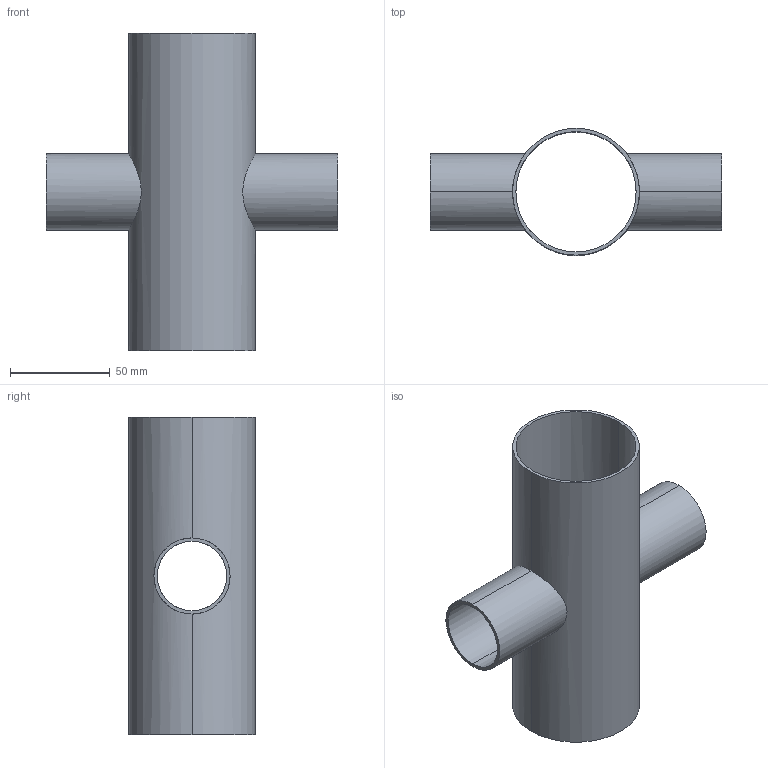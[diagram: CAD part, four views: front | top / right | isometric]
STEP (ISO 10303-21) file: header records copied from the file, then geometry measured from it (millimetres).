
FILE_DESCRIPTION (( 'STEP AP214' ), '1' );
FILE_NAME ('TE9RWWWW6L2.5x1.5-...STEP', '2016-05-22T04:19:41', ( 'eran' ), ( '' ), 'SwSTEP 2.0', 'SolidWorks 2016', '' );
FILE_SCHEMA (( 'AUTOMOTIVE_DESIGN' ));
Length unit declared in the file: millimetre
Products named in the file (1): TE9RWWWW6L2.5x1.5-..
Bounding box: 146.05 x 63.5 x 158.75 mm (x, y, z)
Volume: 64311.4 mm3; surface area: 78913 mm2
Topology: 1 solids, 1 shells, 16 faces, 40 edges, 24 vertices
Faces by surface type: cylinder 12, plane 4
Entity records: 942 total; most frequent: CARTESIAN_POINT 517, DIRECTION 82, ORIENTED_EDGE 80, EDGE_CURVE 40, AXIS2_PLACEMENT_3D 33, VERTEX_POINT 24, EDGE_LOOP 20, ADVANCED_FACE 16
